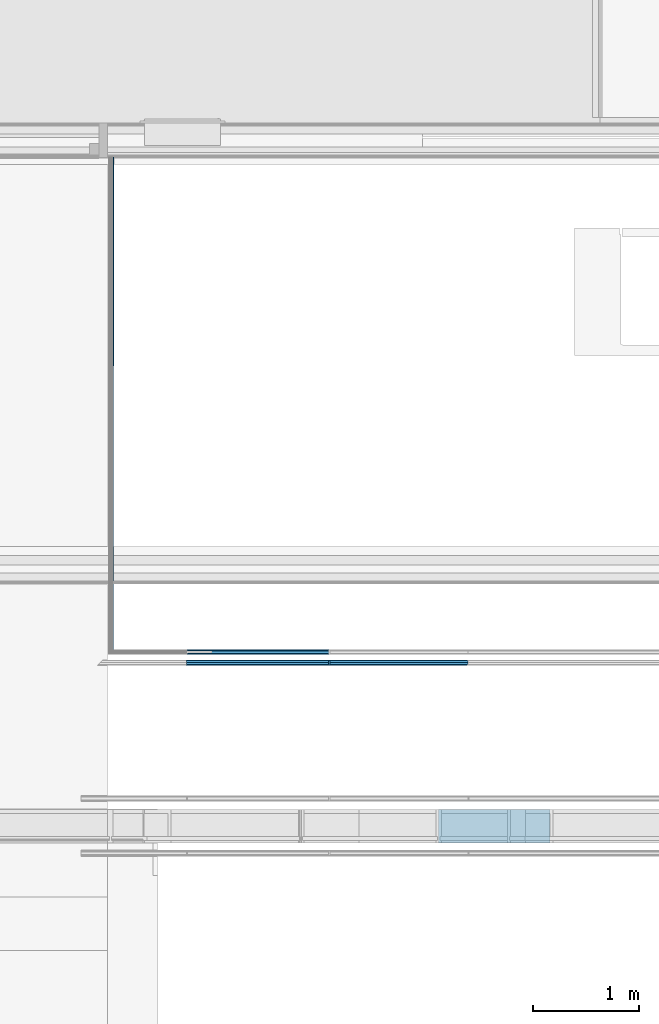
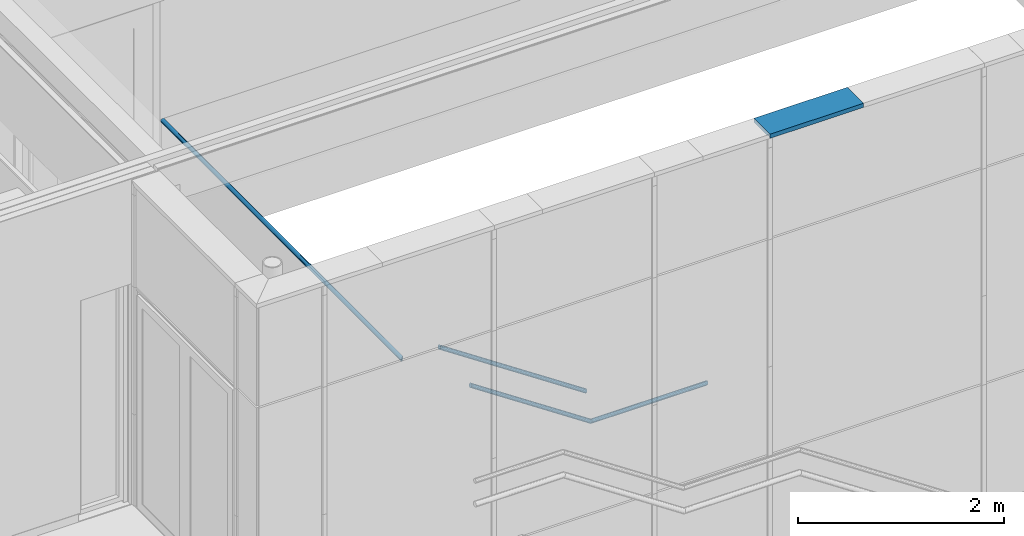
# One storey, part 15 of 137: 5 members, 3 elements without a shape of their own.
"""IFC2X3 building model written with IfcOpenShell, lengths in millimetres."""

from ifc_helpers import new_model, entity, si_unit, converted_unit, derived_unit, money_unit, direction, frame, origin_with_axes, place, context, subcontext, project, spatial, faceted_brep, material, type_object, element, aggregate, save


model = new_model("IFC2X3")

# Units and contexts
model_context = context("Model", 3, precision=0.01, world=origin_with_axes(), true_north=direction((0.0, 1.0)))
body_context = subcontext(model_context, "Body", "Model", "MODEL_VIEW")
ifc_project = project(units=[si_unit("LENGTHUNIT", "METRE", prefix="MILLI"), si_unit("AREAUNIT", "SQUARE_METRE"), si_unit("VOLUMEUNIT", "CUBIC_METRE"), converted_unit("PLANEANGLEUNIT", "DEGREE", entity("IfcPlaneAngleMeasure", 0.0174532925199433), si_unit("PLANEANGLEUNIT", "RADIAN"), dimensions=[0, 0, 0, 0, 0, 0, 0]), money_unit("EUR"), converted_unit("TIMEUNIT", "Year", entity("IfcTimeMeasure", 31556926.0), si_unit("TIMEUNIT", "SECOND"), dimensions=[0, 0, 1, 0, 0, 0, 0]), si_unit("MASSUNIT", "GRAM", prefix="KILO"), si_unit("THERMODYNAMICTEMPERATUREUNIT", "DEGREE_CELSIUS"), si_unit("LUMINOUSINTENSITYUNIT", "LUMEN"), si_unit("ENERGYUNIT", "JOULE", prefix="MEGA"), derived_unit("THERMALCONDUCTANCEUNIT", [(si_unit("POWERUNIT", "WATT"), 1), (si_unit("LENGTHUNIT", "METRE"), -1), (si_unit("THERMODYNAMICTEMPERATUREUNIT", "KELVIN"), -1)]), derived_unit("SPECIFICHEATCAPACITYUNIT", [(si_unit("ENERGYUNIT", "JOULE"), 1), (si_unit("MASSUNIT", "GRAM", prefix="KILO"), -1), (si_unit("THERMODYNAMICTEMPERATUREUNIT", "KELVIN"), -1)]), derived_unit("MASSDENSITYUNIT", [(si_unit("MASSUNIT", "GRAM", prefix="KILO"), 1), (si_unit("VOLUMEUNIT", "CUBIC_METRE"), -1)])], contexts=[model_context])

# Site, building, storey
site_placement = place(None, origin_with_axes())
site = spatial("IfcSite", under=ifc_project, at=site_placement, Name="Site", CompositionType="ELEMENT")
building_placement = place(site_placement, origin_with_axes())
building = spatial("IfcBuilding", under=site, at=building_placement, Name="Naam gebouw", CompositionType="ELEMENT")
storey_placement = place(building_placement, frame((0.0, 0.0, 3960.0), z_axis=(0.0, 0.0, 1.0), x_axis=(1.0, 0.0, 0.0)))
storey = spatial("IfcBuildingStorey", under=building, at=storey_placement, Name="1e verdieping", CompositionType="ELEMENT", Elevation=3960.0)

# Railing, members
railing_type = type_object("IfcRailingType", Name="Railing Type", PredefinedType="NOTDEFINED")
railing_1_placement = place(storey_placement, frame((18520.00002097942, 5850.000227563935, -3240.0), z_axis=(0.0, 0.0, 1.0), x_axis=(1.0, 0.0, 0.0)))
railing_1 = element("IfcRailing", 1, at=railing_1_placement, inside=storey, type_object=railing_type, Name="34_Reling-x", PredefinedType="NOTDEFINED")
ifc_material_1 = material(Name="Metaal - RVS")
member_type_1 = type_object("IfcMemberType", Name="IfcMember", PredefinedType="USERDEFINED")
member_1_placement = place(railing_1_placement, frame((-4700.000047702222, 10.00012613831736, 2985.998958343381), z_axis=(0.0, 0.0, 1.0), x_axis=(1.0, 0.0, 0.0)))
member_1 = element("IfcMember", 2, at=member_1_placement, type_object=member_type_1, material=ifc_material_1, Name="h3 Staal legeringen_Handregel-x", context=body_context, shape_type="Brep", body=[
    faceted_brep([(642.6879740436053, -24.15033229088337, 29.85104165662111), (643.9576951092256, -23.78343985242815, 34.04464514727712), (-656.0423241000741, -23.78277271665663, 34.04464514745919), (-657.3120451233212, -24.14966540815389, 29.85104165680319), (641.418253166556, -23.78343919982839, 25.65743816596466), (640.1871123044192, -22.6939084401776, 21.59125519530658), (639.0319590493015, -20.91484485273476, 17.77604165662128), (637.9878921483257, -18.50030438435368, 14.32772088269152), (637.0866350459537, -15.52365162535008, 11.35106835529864), (636.3555719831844, -12.0753306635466, 8.93652815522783), (635.8169159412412, -8.260116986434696, 7.157464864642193), (635.4870337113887, -4.193933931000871, 6.067934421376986), (635.3759485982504, -0.0003304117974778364, 5.701041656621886), (635.4870358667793, 4.19327305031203, 6.067934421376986), (635.8169201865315, 8.259455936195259, 7.157464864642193), (636.3555781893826, 12.07466933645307, 8.93652815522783), (637.0866430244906, 15.52298992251, 11.35106835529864), (637.9879016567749, 18.49964221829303, 14.32772088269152), (639.0319697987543, 20.91418215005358, 17.77604165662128), (640.1871239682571, 22.69324514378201, 21.59125519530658), (641.4182653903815, 23.78277527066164, 25.65743816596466), (642.6879864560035, 24.14966770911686, 29.85104165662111), (643.9577073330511, 23.78277461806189, 34.04464514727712), (645.1888481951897, 22.69324385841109, 38.11082811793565), (646.3440014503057, 20.91418027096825, 41.92604165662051), (647.3880683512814, 18.49963980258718, 45.37436243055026), (648.2893254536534, 15.52298704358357, 48.35101495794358), (649.0203885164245, 12.07466608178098, 50.76555515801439), (649.5590445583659, 8.259452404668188, 52.54461844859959), (649.8889267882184, 4.193269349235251, 53.6341488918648), (650.0000119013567, -0.0003341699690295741, 54.0010416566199), (649.8889246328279, -4.193937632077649, 53.6341488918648), (649.5590403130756, -8.260120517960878, 52.54461844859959), (649.0203823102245, -12.07533391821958, 50.76555515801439), (648.2893174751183, -15.52365450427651, 48.35101495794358), (647.388058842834, -18.50030680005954, 45.37436243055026), (646.3439907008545, -20.91484673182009, 41.92604165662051), (645.18883653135, -22.69390972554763, 38.11082811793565), (-654.8111828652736, -22.69324234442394, 38.11082811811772), (-653.656029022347, -20.91417912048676, 41.92604165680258), (-652.6119613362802, -18.49963898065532, 45.37436243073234), (-651.7107032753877, -15.52298650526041, 48.35101495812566), (-650.979639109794, -12.07466577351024, 50.76555515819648), (-650.4409818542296, -8.259452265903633, 52.54461844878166), (-650.1110983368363, -4.193269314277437, 53.63414889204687), (-650.0000119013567, 0.0003341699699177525, 54.00104165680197), (-650.111097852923, 4.193937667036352, 53.63414889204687), (-650.4409809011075, 8.260120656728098, 52.54461844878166), (-650.9796377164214, 12.0753342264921, 50.76555515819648), (-651.7107014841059, 15.52365504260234, 48.35101495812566), (-652.6119592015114, 18.50030762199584, 45.37436243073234), (-653.6560266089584, 20.91484788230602, 41.92604165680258), (-654.8111802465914, 22.69391123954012, 38.11082811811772), (-656.0423213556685, 23.78344175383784, 34.04464514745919), (-657.3120423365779, 24.15033459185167, 29.85104165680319), (-658.581763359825, 23.78344190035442, 25.65743816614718), (-659.8129045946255, 22.69391152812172, 21.59125519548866), (-660.9680584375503, 20.91484830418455, 17.7760416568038), (-662.0121261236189, 18.50030816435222, 14.32772088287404), (-662.9133841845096, 15.52365568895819, 11.35106835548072), (-663.6444483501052, 12.07533495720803, 8.936528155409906), (-664.1831056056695, 8.260121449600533, 7.157464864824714), (-664.5129891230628, 4.193938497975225, 6.067934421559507), (-664.6240755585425, 0.0003350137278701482, 5.701041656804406), (-664.5129896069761, -4.193268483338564, 6.067934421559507), (-664.1831065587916, -8.25945147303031, 7.157464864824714), (-663.6444497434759, -12.07466504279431, 8.936528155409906), (-662.9133859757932, -15.52298585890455, 11.35106835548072), (-662.0121282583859, -18.49963843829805, 14.32772088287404), (-660.9680608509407, -20.91417869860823, 17.7760416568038), (-659.8129072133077, -22.69324205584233, 21.59125519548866), (-658.5817661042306, -23.78277257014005, 25.65743816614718)], [[[0, 1, 2, 3]], [[0, 4, 5, 6, 7, 8, 9, 10, 11, 12, 13, 14, 15, 16, 17, 18, 19, 20, 21, 22, 23, 24, 25, 26, 27, 28, 29, 30, 31, 32, 33, 34, 35, 36, 37, 1]], [[1, 37, 38, 2]], [[3, 2, 38, 39, 40, 41, 42, 43, 44, 45, 46, 47, 48, 49, 50, 51, 52, 53, 54, 55, 56, 57, 58, 59, 60, 61, 62, 63, 64, 65, 66, 67, 68, 69, 70, 71]], [[4, 0, 3, 71]], [[5, 4, 71, 70]], [[6, 5, 70, 69]], [[7, 6, 69, 68]], [[8, 7, 68, 67]], [[9, 8, 67, 66]], [[10, 9, 66, 65]], [[11, 10, 65, 64]], [[12, 11, 64, 63]], [[13, 12, 63, 62]], [[14, 13, 62, 61]], [[15, 14, 61, 60]], [[16, 15, 60, 59]], [[17, 16, 59, 58]], [[18, 17, 58, 57]], [[19, 18, 57, 56]], [[20, 19, 56, 55]], [[21, 20, 55, 54]], [[22, 21, 54, 53]], [[23, 22, 53, 52]], [[24, 23, 52, 51]], [[25, 24, 51, 50]], [[26, 25, 50, 49]], [[27, 26, 49, 48]], [[28, 27, 48, 47]], [[29, 28, 47, 46]], [[30, 29, 46, 45]], [[31, 30, 45, 44]], [[32, 31, 44, 43]], [[33, 32, 43, 42]], [[34, 33, 42, 41]], [[35, 34, 41, 40]], [[36, 35, 40, 39]], [[37, 36, 39, 38]]]),
])
member_2_placement = place(railing_1_placement, frame((-6025.000002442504, 10.00012899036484, 2985.999005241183), z_axis=(0.0, 0.0, 1.0), x_axis=(1.0, 0.0, 0.0)))
member_2 = element("IfcMember", 3, at=member_2_placement, type_object=member_type_1, material=ifc_material_1, Name="h3 Staal legeringen_Handregel-x", context=body_context, shape_type="Brep", body=[
    faceted_brep([(667.6879096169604, -24.14966826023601, 29.85104165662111), (668.9576306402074, -23.78277556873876, 34.04464514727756), (-681.0422483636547, -23.78343990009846, 934.0445951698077), (-682.3119692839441, -24.1503329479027, 929.8509916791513), (666.4181886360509, -23.78277542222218, 25.65743816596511), (665.1870475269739, -22.69324490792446, 21.59125519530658), (664.0318938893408, -20.91418155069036, 17.77604165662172), (662.9878264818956, -18.49964129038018, 14.32772088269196), (662.0865687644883, -15.52298871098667, 11.35106835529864), (661.3555049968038, -12.07466789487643, 8.936528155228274), (660.8168481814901, -8.259454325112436, 7.157464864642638), (660.4869651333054, -4.19327133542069, 6.06793442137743), (660.3758791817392, 0.0003321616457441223, 5.70104165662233), (660.4869656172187, 4.193935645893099, 6.06793442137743), (660.8168491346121, 8.260118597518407, 7.157464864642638), (661.3555063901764, 12.0753321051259, 8.936528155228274), (662.0865705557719, 15.52365283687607, 11.35106835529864), (662.9878286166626, 18.50030531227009, 14.32772088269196), (664.0318963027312, 20.91484545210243, 17.77604165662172), (665.187050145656, 22.6939086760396, 21.59125519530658), (666.4181913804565, 23.78343904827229, 25.65743816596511), (667.6879124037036, 24.15033173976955, 29.85104165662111), (668.957633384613, 23.78343890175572, 34.04464514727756), (670.1887744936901, 22.69390838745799, 38.11082811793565), (671.3439281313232, 20.91484503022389, 41.92604165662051), (672.3879955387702, 18.50030476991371, 45.37436243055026), (673.2892532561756, 15.52365219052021, 48.35101495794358), (674.0203170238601, 12.07533137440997, 50.76555515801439), (674.558973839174, 8.260117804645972, 52.54461844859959), (674.8888568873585, 4.193934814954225, 53.6341488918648), (674.9999428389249, 0.0003313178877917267, 54.0010416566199), (674.8888564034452, -4.193272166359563, 53.6341488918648), (674.558972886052, -8.259455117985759, 52.54461844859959), (674.0203156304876, -12.07466862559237, 50.76555515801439), (673.289251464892, -15.52298935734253, 48.35101495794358), (672.3879934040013, -18.49964183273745, 45.37436243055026), (671.3439257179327, -20.91418197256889, 41.92604165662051), (670.1887718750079, -22.69324519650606, 38.11082811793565), (-679.8111074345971, -22.69390918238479, 938.1107781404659), (-678.6559540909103, -20.91484563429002, 941.9259916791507), (-677.6118870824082, -18.50030520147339, 945.3743124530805), (-676.7106298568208, -15.52365247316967, 948.3509649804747), (-675.9795666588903, -12.07533153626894, 950.765505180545), (-675.4409104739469, -8.260117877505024, 952.5445684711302), (-675.1110280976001, -4.193934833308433, 953.6340989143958), (-674.9999428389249, -0.0003313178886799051, 954.000991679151), (-675.1110299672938, 4.193272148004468, 953.6340989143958), (-675.4409141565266, 8.259455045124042, 952.5445684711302), (-675.9795720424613, 12.07466846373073, 950.765505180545), (-676.7106367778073, 15.52298907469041, 948.3509649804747), (-677.6118953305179, 18.49964140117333, 945.3743124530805), (-678.6559634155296, 20.91418136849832, 941.9259916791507), (-679.8111175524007, 22.69324440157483, 938.1107781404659), (-681.0422589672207, 23.78277457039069, 934.0445951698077), (-682.3119800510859, 24.14966705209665, 929.8509916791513), (-683.5817009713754, 23.78277400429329, 925.6573881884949), (-684.8128419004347, 22.69324328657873, 921.5912052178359), (-685.9679952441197, 20.91417973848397, 917.775991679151), (-687.012062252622, 18.49963930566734, 914.3276709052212), (-687.9133194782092, 15.52298657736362, 911.3510183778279), (-688.6443826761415, 12.07466564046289, 908.9364781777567), (-689.1830388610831, 8.259451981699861, 907.1574148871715), (-689.51292123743, 4.193268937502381, 906.0678844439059), (-689.6240064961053, -0.0003345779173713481, 905.7009916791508), (-689.5129193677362, -4.193938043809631, 906.0678844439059), (-689.1830351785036, -8.260120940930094, 907.1574148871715), (-688.6443772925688, -12.07533435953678, 908.9364781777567), (-687.9133125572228, -15.52365497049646, 911.3510183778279), (-687.0120540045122, -18.50030729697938, 914.3276709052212), (-685.9679859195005, -20.91484726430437, 917.775991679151), (-684.8128317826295, -22.69391029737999, 921.5912052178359), (-683.5816903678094, -23.78344046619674, 925.6573881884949)], [[[0, 1, 2, 3]], [[0, 4, 5, 6, 7, 8, 9, 10, 11, 12, 13, 14, 15, 16, 17, 18, 19, 20, 21, 22, 23, 24, 25, 26, 27, 28, 29, 30, 31, 32, 33, 34, 35, 36, 37, 1]], [[1, 37, 38, 2]], [[3, 2, 38, 39, 40, 41, 42, 43, 44, 45, 46, 47, 48, 49, 50, 51, 52, 53, 54, 55, 56, 57, 58, 59, 60, 61, 62, 63, 64, 65, 66, 67, 68, 69, 70, 71]], [[4, 0, 3, 71]], [[5, 4, 71, 70]], [[6, 5, 70, 69]], [[7, 6, 69, 68]], [[8, 7, 68, 67]], [[9, 8, 67, 66]], [[10, 9, 66, 65]], [[11, 10, 65, 64]], [[12, 11, 64, 63]], [[13, 12, 63, 62]], [[14, 13, 62, 61]], [[15, 14, 61, 60]], [[16, 15, 60, 59]], [[17, 16, 59, 58]], [[18, 17, 58, 57]], [[19, 18, 57, 56]], [[20, 19, 56, 55]], [[21, 20, 55, 54]], [[22, 21, 54, 53]], [[23, 22, 53, 52]], [[24, 23, 52, 51]], [[25, 24, 51, 50]], [[26, 25, 50, 49]], [[27, 26, 49, 48]], [[28, 27, 48, 47]], [[29, 28, 47, 46]], [[30, 29, 46, 45]], [[31, 30, 45, 44]], [[32, 31, 44, 43]], [[33, 32, 43, 42]], [[34, 33, 42, 41]], [[35, 34, 41, 40]], [[36, 35, 40, 39]], [[37, 36, 39, 38]]]),
])
aggregate(railing_1, [member_1, member_2])

railing_2_placement = place(storey_placement, frame((18520.00002097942, 5850.000227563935, -3240.0), z_axis=(0.0, 0.0, 1.0), x_axis=(1.0, 0.0, 0.0)))
railing_2 = element("IfcRailing", 4, at=railing_2_placement, inside=storey, type_object=railing_type, Name="34_Reling-x", PredefinedType="NOTDEFINED")
member_3_placement = place(railing_2_placement, frame((-6171.612361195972, 110.0001894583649, 3285.998938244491), z_axis=(0.0, 0.0, 1.0), x_axis=(1.0, 0.0, 0.0)))
member_3 = element("IfcMember", 5, at=member_3_placement, type_object=member_type_1, material=ifc_material_1, Name="h3 Staal legeringen_", context=body_context, shape_type="Brep", body=[
    faceted_brep([(814.3003197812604, -24.14959629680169, 29.85104165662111), (815.5700408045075, -23.78270360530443, 34.04464514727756), (-827.6546585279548, -23.78351186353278, 1129.527814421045), (-828.9243794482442, -24.15040491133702, 1125.334210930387), (813.030598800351, -23.78270345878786, 25.65743816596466), (811.7994576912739, -22.69317294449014, 21.59125519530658), (810.6443040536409, -20.91410958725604, 17.77604165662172), (809.6002366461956, -18.49956932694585, 14.32772088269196), (808.6989789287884, -15.52291674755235, 11.35106835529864), (807.9679151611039, -12.07459593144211, 8.936528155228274), (807.42925834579, -8.259382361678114, 7.157464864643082), (807.0993752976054, -4.193199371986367, 6.06793442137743), (806.9882893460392, 0.0004041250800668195, 5.70104165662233), (807.0993757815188, 4.194007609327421, 6.06793442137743), (807.429259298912, 8.26019056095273, 7.157464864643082), (807.9679165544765, 12.07540406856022, 8.936528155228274), (808.698980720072, 15.52372480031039, 11.35106835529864), (809.6002387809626, 18.50037727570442, 14.32772088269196), (810.6443064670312, 20.91491741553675, 17.77604165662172), (811.7994603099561, 22.69398063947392, 21.59125519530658), (813.0306015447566, 23.78351101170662, 25.65743816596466), (814.3003225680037, 24.15040370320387, 29.85104165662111), (815.5700435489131, 23.78351086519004, 34.04464514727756), (816.8011846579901, 22.69398035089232, 38.11082811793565), (817.9563382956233, 20.91491699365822, 41.92604165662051), (819.0004057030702, 18.50037673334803, 45.37436243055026), (819.9016634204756, 15.52372415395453, 48.35101495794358), (820.6327271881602, 12.07540333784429, 50.76555515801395), (821.171384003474, 8.260189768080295, 52.54461844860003), (821.5012670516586, 4.194006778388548, 53.6341488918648), (821.6123530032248, 0.0004032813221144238, 54.0010416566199), (821.5012665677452, -4.19320020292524, 53.6341488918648), (821.171383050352, -8.259383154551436, 52.54461844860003), (820.6327257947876, -12.07459666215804, 50.76555515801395), (819.9016616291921, -15.52291739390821, 48.35101495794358), (819.0004035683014, -18.49956986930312, 45.37436243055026), (817.9563358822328, -20.91411000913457, 41.92604165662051), (816.801182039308, -22.69317323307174, 38.11082811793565), (-826.4235175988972, -22.69398114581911, 1133.593997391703), (-825.2683642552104, -20.91491759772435, 1137.409210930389), (-824.2242972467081, -18.50037716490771, 1140.857531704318), (-823.3230400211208, -15.52372443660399, 1143.834184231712), (-822.5919768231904, -12.07540349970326, 1146.248724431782), (-822.053320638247, -8.260189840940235, 1148.027787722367), (-821.7234382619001, -4.194006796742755, 1149.117318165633), (-821.6123530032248, -0.0004032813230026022, 1149.484210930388), (-821.7234401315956, 4.193200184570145, 1149.117318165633), (-822.0533243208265, 8.25938308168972, 1148.027787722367), (-822.5919822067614, 12.07459650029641, 1146.248724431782), (-823.3230469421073, 15.52291711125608, 1143.834184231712), (-824.2243054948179, 18.49956943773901, 1140.857531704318), (-825.2683735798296, 20.914109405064, 1137.409210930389), (-826.4235277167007, 22.69317243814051, 1133.593997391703), (-827.6546691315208, 23.78270260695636, 1129.527814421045), (-828.924390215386, 24.14959508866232, 1125.334210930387), (-830.1941111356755, 23.78270204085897, 1121.140607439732), (-831.425252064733, 22.69317132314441, 1117.074424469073), (-832.5804054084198, 20.91410777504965, 1113.259210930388), (-833.6244724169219, 18.49956734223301, 1109.810890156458), (-834.5257296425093, 15.5229146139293, 1106.834237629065), (-835.2567928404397, 12.07459367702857, 1104.419697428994), (-835.7954490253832, 8.259380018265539, 1102.640634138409), (-836.12533140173, 4.193196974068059, 1101.551103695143), (-836.2364166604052, -0.0004065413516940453, 1101.184210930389), (-836.1253295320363, -4.194010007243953, 1101.551103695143), (-835.7954453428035, -8.260192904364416, 1102.640634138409), (-835.2567874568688, -12.07540632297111, 1104.419697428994), (-834.5257227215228, -15.52372693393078, 1106.834237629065), (-833.6244641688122, -18.5003792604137, 1109.810890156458), (-832.5803960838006, -20.91491922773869, 1113.259210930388), (-831.4252419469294, -22.69398226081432, 1117.074424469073), (-830.1941005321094, -23.78351242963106, 1121.140607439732)], [[[0, 1, 2, 3]], [[0, 4, 5, 6, 7, 8, 9, 10, 11, 12, 13, 14, 15, 16, 17, 18, 19, 20, 21, 22, 23, 24, 25, 26, 27, 28, 29, 30, 31, 32, 33, 34, 35, 36, 37, 1]], [[1, 37, 38, 2]], [[3, 2, 38, 39, 40, 41, 42, 43, 44, 45, 46, 47, 48, 49, 50, 51, 52, 53, 54, 55, 56, 57, 58, 59, 60, 61, 62, 63, 64, 65, 66, 67, 68, 69, 70, 71]], [[4, 0, 3, 71]], [[5, 4, 71, 70]], [[6, 5, 70, 69]], [[7, 6, 69, 68]], [[8, 7, 68, 67]], [[9, 8, 67, 66]], [[10, 9, 66, 65]], [[11, 10, 65, 64]], [[12, 11, 64, 63]], [[13, 12, 63, 62]], [[14, 13, 62, 61]], [[15, 14, 61, 60]], [[16, 15, 60, 59]], [[17, 16, 59, 58]], [[18, 17, 58, 57]], [[19, 18, 57, 56]], [[20, 19, 56, 55]], [[21, 20, 55, 54]], [[22, 21, 54, 53]], [[23, 22, 53, 52]], [[24, 23, 52, 51]], [[25, 24, 51, 50]], [[26, 25, 50, 49]], [[27, 26, 49, 48]], [[28, 27, 48, 47]], [[29, 28, 47, 46]], [[30, 29, 46, 45]], [[31, 30, 45, 44]], [[32, 31, 44, 43]], [[33, 32, 43, 42]], [[34, 33, 42, 41]], [[35, 34, 41, 40]], [[36, 35, 40, 39]], [[37, 36, 39, 38]]]),
])
member_4_placement = place(railing_2_placement, frame((-7412.441104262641, 2442.483848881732, 4385.998958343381), z_axis=(0.0, 0.0, 1.0), x_axis=(1.0, 0.0, 0.0)))
member_4 = element("IfcMember", 6, at=member_4_placement, type_object=member_type_1, material=ifc_material_1, Name="h3 Staal legeringen_", context=body_context, shape_type="Brep", body=[
    faceted_brep([(-26.66241465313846, -2356.634051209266, 29.85104165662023), (-26.29513053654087, -2356.267158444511, 34.04464514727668), (-21.29643903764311, 2332.509406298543, 34.04464514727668), (-21.66333159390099, 2332.509797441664, 29.85104165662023), (-26.29513053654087, -2356.267158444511, 25.65743816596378), (-25.20443792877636, -2355.177628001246, 21.5912551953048), (-23.4234769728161, -2353.398564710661, 17.77604165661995), (-21.00636126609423, -2350.98402451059, 14.32772088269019), (-18.02653364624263, -2348.007371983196, 11.35106835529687), (-14.57453466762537, -2344.559051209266, 8.93652815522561), (-10.75525157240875, -2340.743837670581, 7.157464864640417), (-6.684731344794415, -2336.677654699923, 6.067934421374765), (-2.486654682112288, -2332.484051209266, 5.701041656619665), (1.711421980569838, -2328.29044771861, 6.067934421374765), (5.781942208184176, -2324.224264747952, 7.157464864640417), (9.601225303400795, -2320.409051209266, 8.93652815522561), (13.05322428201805, -2316.960730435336, 11.35106835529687), (16.03305190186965, -2313.984077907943, 14.32772088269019), (18.45016760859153, -2311.569537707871, 17.77604165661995), (20.23112856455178, -2309.790474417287, 21.5912551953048), (21.32182117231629, -2308.700943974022, 25.65743816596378), (21.68910528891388, -2308.334051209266, 29.85104165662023), (21.32182117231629, -2308.700943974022, 34.04464514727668), (20.23112856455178, -2309.790474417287, 38.11082811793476), (18.45016760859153, -2311.569537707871, 41.92604165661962), (16.03305190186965, -2313.984077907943, 45.37436243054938), (13.05322428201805, -2316.960730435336, 48.35101495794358), (9.601225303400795, -2320.409051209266, 50.76555515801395), (5.781942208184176, -2324.224264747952, 52.54461844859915), (1.711421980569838, -2328.29044771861, 53.6341488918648), (-2.486654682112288, -2332.484051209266, 54.0010416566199), (-6.684731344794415, -2336.677654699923, 53.6341488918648), (-10.75525157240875, -2340.743837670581, 52.54461844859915), (-14.57453466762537, -2344.559051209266, 50.76555515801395), (-18.02653364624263, -2348.007371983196, 48.35101495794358), (-21.00636126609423, -2350.98402451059, 45.37436243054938), (-23.4234769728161, -2353.398564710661, 41.92604165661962), (-25.20443792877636, -2355.177628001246, 38.11082811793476), (-20.20690921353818, 2332.508244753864, 38.11082811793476), (-18.42784693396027, 2332.506348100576, 41.92604165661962), (-16.01330810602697, 2332.503773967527, 45.37436243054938), (-13.03665727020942, 2332.500600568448, 48.35101495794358), (-9.58833845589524, 2332.496924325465, 50.76555515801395), (-5.773127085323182, 2332.492856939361, 52.54461844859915), (-1.706946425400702, 2332.488521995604, 53.6341488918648), (2.486654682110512, 2332.484051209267, 54.0010416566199), (6.680255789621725, 2332.47958042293, 53.6341488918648), (10.74643644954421, 2332.475245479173, 52.54461844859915), (14.56164782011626, 2332.471178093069, 50.76555515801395), (18.00996663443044, 2332.467501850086, 48.35101495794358), (20.98661747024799, 2332.464328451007, 45.37436243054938), (23.40115629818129, 2332.461754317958, 41.92604165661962), (25.18021857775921, 2332.45985766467, 38.11082811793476), (26.26974840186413, 2332.458696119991, 34.04464514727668), (26.63664095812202, 2332.458304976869, 29.85104165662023), (26.26974840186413, 2332.458696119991, 25.65743816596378), (25.18021857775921, 2332.45985766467, 21.5912551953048), (23.40115629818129, 2332.461754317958, 17.77604165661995), (20.98661747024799, 2332.464328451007, 14.32772088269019), (18.00996663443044, 2332.467501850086, 11.35106835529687), (14.56164782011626, 2332.471178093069, 8.93652815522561), (10.74643644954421, 2332.475245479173, 7.157464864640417), (6.680255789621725, 2332.47958042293, 6.067934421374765), (2.486654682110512, 2332.484051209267, 5.701041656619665), (-1.706946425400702, 2332.488521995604, 6.067934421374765), (-5.773127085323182, 2332.492856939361, 7.157464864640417), (-9.58833845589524, 2332.496924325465, 8.93652815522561), (-13.03665727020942, 2332.500600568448, 11.35106835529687), (-16.01330810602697, 2332.503773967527, 14.32772088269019), (-18.42784693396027, 2332.506348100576, 17.77604165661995), (-20.20690921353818, 2332.508244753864, 21.5912551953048), (-21.29643903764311, 2332.509406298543, 25.65743816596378)], [[[0, 1, 2, 3]], [[0, 4, 5, 6, 7, 8, 9, 10, 11, 12, 13, 14, 15, 16, 17, 18, 19, 20, 21, 22, 23, 24, 25, 26, 27, 28, 29, 30, 31, 32, 33, 34, 35, 36, 37, 1]], [[1, 37, 38, 2]], [[3, 2, 38, 39, 40, 41, 42, 43, 44, 45, 46, 47, 48, 49, 50, 51, 52, 53, 54, 55, 56, 57, 58, 59, 60, 61, 62, 63, 64, 65, 66, 67, 68, 69, 70, 71]], [[4, 0, 3, 71]], [[5, 4, 71, 70]], [[6, 5, 70, 69]], [[7, 6, 69, 68]], [[8, 7, 68, 67]], [[9, 8, 67, 66]], [[10, 9, 66, 65]], [[11, 10, 65, 64]], [[12, 11, 64, 63]], [[13, 12, 63, 62]], [[14, 13, 62, 61]], [[15, 14, 61, 60]], [[16, 15, 60, 59]], [[17, 16, 59, 58]], [[18, 17, 58, 57]], [[19, 18, 57, 56]], [[20, 19, 56, 55]], [[21, 20, 55, 54]], [[22, 21, 54, 53]], [[23, 22, 53, 52]], [[24, 23, 52, 51]], [[25, 24, 51, 50]], [[26, 25, 50, 49]], [[27, 26, 49, 48]], [[28, 27, 48, 47]], [[29, 28, 47, 46]], [[30, 29, 46, 45]], [[31, 30, 45, 44]], [[32, 31, 44, 43]], [[33, 32, 43, 42]], [[34, 33, 42, 41]], [[35, 34, 41, 40]], [[36, 35, 40, 39]], [[37, 36, 39, 38]]]),
])
aggregate(railing_2, [member_3, member_4])

# Curtain wall, member
curtain_wall_type = type_object("IfcCurtainWallType", Name="Curtain Wall Type", PredefinedType="NOTDEFINED")
curtain_wall_placement = place(storey_placement, frame((8473.014787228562, 4364.43626274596, -3949.999921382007), z_axis=(0.0, 0.0, 1.0), x_axis=(1.0, 0.0, 0.0)))
curtain_wall = element("IfcCurtainWall", 7, at=curtain_wall_placement, inside=storey, type_object=curtain_wall_type, Name="21_Vliesgevel-x")
ifc_material_2 = material(Name="Metaal - Staal AFW")
member_type_2 = type_object("IfcMemberType", Name="Boundary Frame 50 x 313", PredefinedType="MULLION")
member_5_placement = place(curtain_wall_placement, frame((5721.980378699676, -161.43626274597, 7800.000020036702), z_axis=(1.0, 0.0, 0.0), x_axis=(0.0, 0.0, 1.0)))
member_5 = element("IfcMember", 8, at=member_5_placement, type_object=member_type_2, material=ifc_material_2, Name="h METAAL_Kader-x", ObjectType="MULLION", context=body_context, shape_type="Brep", body=[
    faceted_brep([(-35.00000000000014, -17.4000000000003, 0.0), (-35.00000000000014, -17.4000000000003, 1047.961266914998), (-35.00000000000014, 20.99999999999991, 1047.961266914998), (-35.00000000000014, 20.99999999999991, 0.0), (-14.99999999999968, -17.4000000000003, 0.0), (-14.99999999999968, -17.4000000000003, 1047.961266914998), (-14.99999999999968, 20.99999999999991, 1047.961266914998), (-14.99999999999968, 20.99999999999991, 0.0)], [[[0, 1, 2, 3]], [[4, 5, 1, 0]], [[1, 5, 6, 2]], [[3, 2, 6, 7]], [[0, 3, 7, 4]], [[7, 6, 5, 4]]]),
    faceted_brep([(-14.99999999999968, -20.99999999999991, 0.0), (-14.99999999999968, -20.99999999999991, 1047.961266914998), (-14.99999999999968, 20.99999999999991, 1047.961266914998), (-14.99999999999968, 20.99999999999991, 0.0), (0.0, -20.99999999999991, 0.0), (0.0, -20.99999999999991, 1047.961266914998), (0.0, 20.99999999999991, 1047.961266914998), (0.0, 20.99999999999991, 0.0)], [[[0, 1, 2, 3]], [[4, 5, 1, 0]], [[1, 5, 6, 2]], [[3, 2, 6, 7]], [[0, 3, 7, 4]], [[7, 6, 5, 4]]]),
    faceted_brep([(-49.99999999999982, -272.0000000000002, 0.0), (-49.99999999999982, -272.0000000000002, 1047.961266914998), (-49.99999999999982, -17.4000000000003, 1047.961266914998), (-49.99999999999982, -17.4000000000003, 0.0), (0.0, -272.0000000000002, 0.0), (0.0, -272.0000000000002, 1047.961266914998), (0.0, -17.4000000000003, 1047.961266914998), (0.0, -17.4000000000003, 0.0)], [[[0, 1, 2, 3]], [[4, 5, 1, 0]], [[1, 5, 6, 2]], [[3, 2, 6, 7]], [[0, 3, 7, 4]], [[7, 6, 5, 4]]]),
    faceted_brep([(0.0, 41.00000000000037, 0.0), (0.0, 41.00000000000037, 1047.961266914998), (0.0, 20.99999999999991, 1047.961266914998), (0.0, 20.99999999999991, 0.0), (-49.99999999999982, 41.00000000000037, 0.0), (-49.99999999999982, 41.00000000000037, 1047.961266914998), (-49.99999999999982, 20.99999999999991, 1047.961266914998), (-49.99999999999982, 20.99999999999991, 0.0)], [[[0, 1, 2, 3]], [[4, 5, 1, 0]], [[1, 5, 6, 2]], [[3, 2, 6, 7]], [[0, 3, 7, 4]], [[7, 6, 5, 4]]]),
])
aggregate(curtain_wall, [member_5])

save(model, "model.ifc")
